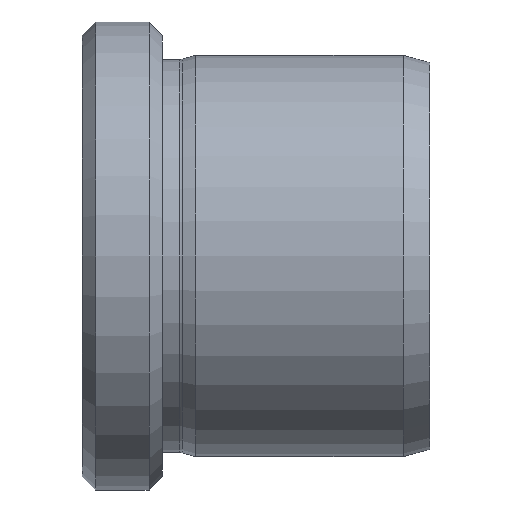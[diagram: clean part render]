
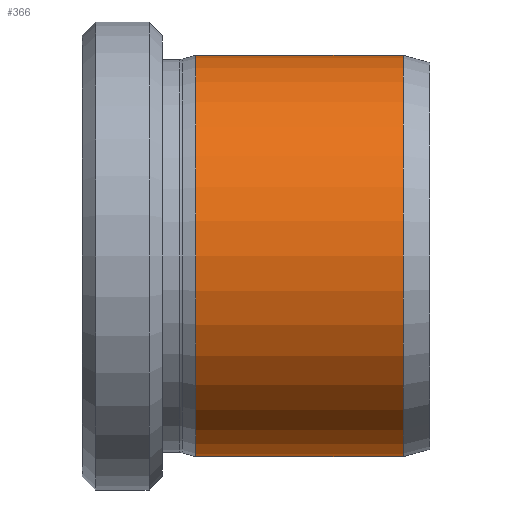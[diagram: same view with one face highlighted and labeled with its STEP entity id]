
A CAD part, front view. The second image highlights one B-rep face of the part: STEP entity #366.
In plain terms, the highlighted cylindrical face has radius 15 mm (diameter 30 mm), a partial arc.
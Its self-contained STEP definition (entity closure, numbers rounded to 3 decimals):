
#26 = ORIENTED_EDGE ( 'NONE', *, *, #295, .F. ) ;
#31 = CARTESIAN_POINT ( 'NONE',  ( 0., 0., -15. ) ) ;
#35 = DIRECTION ( 'NONE',  ( 0., 0., 1. ) ) ;
#56 = VERTEX_POINT ( 'NONE', #403 ) ;
#66 = LINE ( 'NONE', #31, #582 ) ;
#67 = VECTOR ( 'NONE', #369, 1000. ) ;
#72 = DIRECTION ( 'NONE',  ( -1., 0., 0. ) ) ;
#79 = CARTESIAN_POINT ( 'NONE',  ( 19.3, 0., 15. ) ) ;
#140 = CARTESIAN_POINT ( 'NONE',  ( 0., 0., 15. ) ) ;
#161 = CYLINDRICAL_SURFACE ( 'NONE', #342, 15. ) ;
#190 = CIRCLE ( 'NONE', #252, 15. ) ;
#201 = CIRCLE ( 'NONE', #222, 15. ) ;
#222 = AXIS2_PLACEMENT_3D ( 'NONE', #361, #310, #35 ) ;
#252 = AXIS2_PLACEMENT_3D ( 'NONE', #527, #632, #584 ) ;
#259 = CARTESIAN_POINT ( 'NONE',  ( 34.8, 0., -15. ) ) ;
#269 = DIRECTION ( 'NONE',  ( 0., 0., 1. ) ) ;
#278 = EDGE_LOOP ( 'NONE', ( #26, #605, #317, #562 ) ) ;
#295 = EDGE_CURVE ( 'NONE', #333, #554, #66, .T. ) ;
#310 = DIRECTION ( 'NONE',  ( -1., 0., 0. ) ) ;
#317 = ORIENTED_EDGE ( 'NONE', *, *, #580, .T. ) ;
#326 = EDGE_CURVE ( 'NONE', #333, #56, #201, .T. ) ;
#333 = VERTEX_POINT ( 'NONE', #259 ) ;
#342 = AXIS2_PLACEMENT_3D ( 'NONE', #479, #522, #269 ) ;
#344 = VERTEX_POINT ( 'NONE', #79 ) ;
#360 = EDGE_CURVE ( 'NONE', #554, #344, #190, .T. ) ;
#361 = CARTESIAN_POINT ( 'NONE',  ( 34.8, 0., 0. ) ) ;
#366 = ADVANCED_FACE ( 'NONE', ( #440 ), #161, .T. ) ;
#369 = DIRECTION ( 'NONE',  ( -1., 0., 0. ) ) ;
#403 = CARTESIAN_POINT ( 'NONE',  ( 34.8, 0., 15. ) ) ;
#440 = FACE_OUTER_BOUND ( 'NONE', #278, .T. ) ;
#460 = LINE ( 'NONE', #140, #67 ) ;
#479 = CARTESIAN_POINT ( 'NONE',  ( 0., 0., 0. ) ) ;
#490 = CARTESIAN_POINT ( 'NONE',  ( 19.3, 0., -15. ) ) ;
#522 = DIRECTION ( 'NONE',  ( -1., 0., 0. ) ) ;
#527 = CARTESIAN_POINT ( 'NONE',  ( 19.3, 0., 0. ) ) ;
#554 = VERTEX_POINT ( 'NONE', #490 ) ;
#562 = ORIENTED_EDGE ( 'NONE', *, *, #360, .F. ) ;
#580 = EDGE_CURVE ( 'NONE', #56, #344, #460, .T. ) ;
#582 = VECTOR ( 'NONE', #72, 1000. ) ;
#584 = DIRECTION ( 'NONE',  ( 0., 0., 1. ) ) ;
#605 = ORIENTED_EDGE ( 'NONE', *, *, #326, .T. ) ;
#632 = DIRECTION ( 'NONE',  ( -1., 0., 0. ) ) ;
